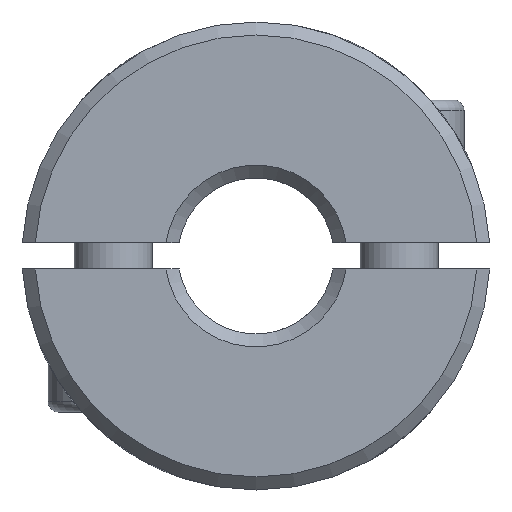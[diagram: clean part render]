
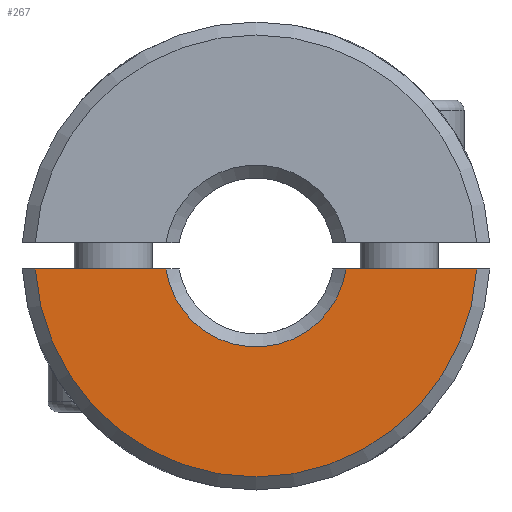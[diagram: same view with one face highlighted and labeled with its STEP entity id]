
A CAD part, front view. The second image highlights one B-rep face of the part: STEP entity #267.
In plain terms, the highlighted planar face has unit normal (0, -1, 0).
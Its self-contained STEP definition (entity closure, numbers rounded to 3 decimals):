
#267 = ADVANCED_FACE( '', ( #524 ), #525, .F. );
#524 = FACE_OUTER_BOUND( '', #860, .T. );
#525 = PLANE( '', #861 );
#860 = EDGE_LOOP( '', ( #1245, #1246, #1247, #1248 ) );
#861 = AXIS2_PLACEMENT_3D( '', #1249, #1250, #1251 );
#1245 = ORIENTED_EDGE( '', *, *, #1856, .F. );
#1246 = ORIENTED_EDGE( '', *, *, #1857, .T. );
#1247 = ORIENTED_EDGE( '', *, *, #1858, .F. );
#1248 = ORIENTED_EDGE( '', *, *, #1823, .T. );
#1249 = CARTESIAN_POINT( '', ( 0., -30., 0. ) );
#1250 = DIRECTION( '', ( 0., 1., 0. ) );
#1251 = DIRECTION( '', ( 0., 0., 1. ) );
#1823 = EDGE_CURVE( '', #2087, #2091, #2093, .T. );
#1856 = EDGE_CURVE( '', #2148, #2091, #2149, .T. );
#1857 = EDGE_CURVE( '', #2148, #2150, #2151, .F. );
#1858 = EDGE_CURVE( '', #2087, #2150, #2152, .T. );
#2087 = VERTEX_POINT( '', #2466 );
#2091 = VERTEX_POINT( '', #2473 );
#2093 = CIRCLE( '', #2478, 3.5 );
#2148 = VERTEX_POINT( '', #2647 );
#2149 = LINE( '', #2648, #2649 );
#2150 = VERTEX_POINT( '', #2650 );
#2151 = CIRCLE( '', #2651, 8.5 );
#2152 = LINE( '', #2652, #2653 );
#2466 = CARTESIAN_POINT( '', ( 3.464, -30., -0.5 ) );
#2473 = CARTESIAN_POINT( '', ( -3.464, -30., -0.5 ) );
#2478 = AXIS2_PLACEMENT_3D( '', #3738, #3739, #3740 );
#2647 = CARTESIAN_POINT( '', ( -8.485, -30., -0.5 ) );
#2648 = CARTESIAN_POINT( '', ( 0., -30., -0.5 ) );
#2649 = VECTOR( '', #3781, 1000. );
#2650 = CARTESIAN_POINT( '', ( 8.485, -30., -0.5 ) );
#2651 = AXIS2_PLACEMENT_3D( '', #3782, #3783, #3784 );
#2652 = CARTESIAN_POINT( '', ( 0., -30., -0.5 ) );
#2653 = VECTOR( '', #3785, 1000. );
#3738 = CARTESIAN_POINT( '', ( 0., -30., 0. ) );
#3739 = DIRECTION( '', ( 0., 1., 0. ) );
#3740 = DIRECTION( '', ( 0., 0., 1. ) );
#3781 = DIRECTION( '', ( 1., 0., 0. ) );
#3782 = CARTESIAN_POINT( '', ( 0., -30., 0. ) );
#3783 = DIRECTION( '', ( 0., 1., 0. ) );
#3784 = DIRECTION( '', ( 0., 0., 1. ) );
#3785 = DIRECTION( '', ( 1., 0., 0. ) );
